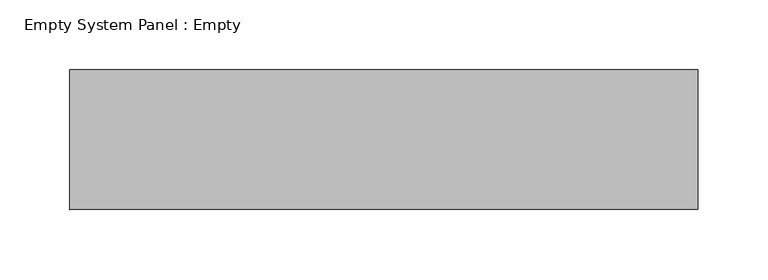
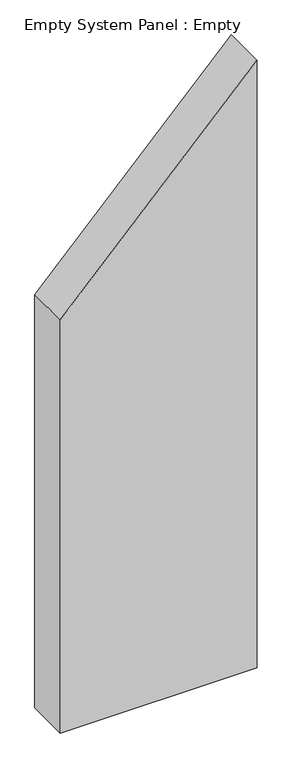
"""IFC4 building model written with IfcOpenShell, lengths in millimetres: plate geometry, Empty System Panel : Empty."""

from ifc_helpers import new_model, si_unit, frame, origin, place, context, project, spatial, polyline, outline, extrude, source, transform, mapped, element, save


def empty_system_panel_empty_d3f17187(model_context):
    return source(origin(), model_context, "Body", "SweptSolid", [
        extrude(outline(polyline([(0.0, -225.0), (0.0, 225.0), (1467.6610487, 225.0), (997.8472559, -225.0), (0.0, -225.0)])), frame((0.0, -50.0, 0.0), z_axis=(0.0, 1.0, 0.0), x_axis=(0.0, 0.0, 1.0)), (0.0, 0.0, 1.0), 100.0),
    ])


if __name__ == "__main__":
    model = new_model("IFC4")
    model_context = context("Model", 3, world=origin())
    ifc_project = project(units=[si_unit("LENGTHUNIT", "METRE", prefix="MILLI")], contexts=[model_context])
    site = spatial("IfcSite", under=ifc_project)
    building = spatial("IfcBuilding", under=site)
    placement = place(None, origin())
    empty_system_panel_empty_shape = empty_system_panel_empty_d3f17187(model_context)
    element("IfcPlate", 1, ObjectType="Empty System Panel : Empty", at=placement, inside=building, context=model_context, shape_type="MappedRepresentation", body=[
        mapped(empty_system_panel_empty_shape, transform((0.0, 0.0, 0.0), x_axis=(1.0, 0.0, 0.0), y_axis=(0.0, 1.0, 0.0), z_axis=(0.0, 0.0, 1.0))),
    ])
    save(model, "model.ifc")
